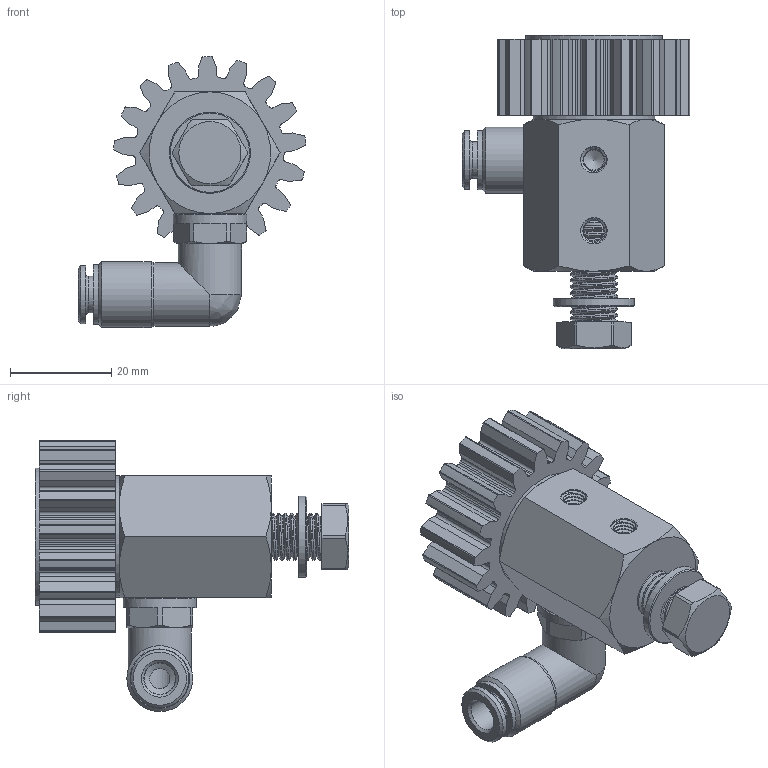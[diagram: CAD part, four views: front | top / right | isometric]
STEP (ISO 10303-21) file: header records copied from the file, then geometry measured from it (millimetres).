
FILE_DESCRIPTION (( 'STEP AP214' ), '1' );
FILE_NAME ('012_13_02_15_17BZ.STEP', '2026-04-08T12:32:25', ( '' ), ( '' ), 'SwSTEP 2.0', 'SolidWorks 2022', '' );
FILE_SCHEMA (( 'AUTOMOTIVE_DESIGN' ));
Length unit declared in the file: millimetre
Products named in the file (13): Schraube_M8_20; 012_06_Senkschraube; OR 7.2X1.9_1; 012_13_02_15_17BZ; RIVOLUZIONE_0_2; RH202242; U_Scheibe_8,4; H202242_HDS022_6_M10X1_08.05.17(1); Schmierzahnrad_02_15_17_G; DR6-C_HDX_25.07.16_1; 012_13b_01_winklige_Achse_lang_M8_1; 12012_06_01_Scheibe-CRS-VA_27.SLDASM; 12012_06_00_Scheibe-CRS-VA.SLDASM
Assembly tree (12 placements, depth 3):
  012_13_02_15_17BZ
    012_13b_01_winklige_Achse_lang_M8_1
    Schraube_M8_20
    U_Scheibe_8,4
    H202242_HDS022_6_M10X1_08.05.17(1)
      OR 7.2X1.9_1
      RH202242
      DR6-C_HDX_25.07.16_1
      RIVOLUZIONE_0_2
    12012_06_00_Scheibe-CRS-VA.SLDASM
    12012_06_01_Scheibe-CRS-VA_27.SLDASM
    012_06_Senkschraube
    Schmierzahnrad_02_15_17_G
Bounding box: 44.92 x 61.9 x 53.5 mm (x, y, z)
Volume: 33589 mm3; surface area: 18672.3 mm2
Topology: 11 solids, 11 shells, 733 faces, 2014 edges, 1336 vertices
Faces by surface type: plane 419, cylinder 141, bspline 116, cone 54, torus 3
Full cylindrical faces by diameter (mm): 3 x1, 4 x2, 5.5 x1, 6 x1, 6.2 x1, 6.3 x1, 6.5 x1, 7.2 x1, 8.4 x1, 8.5 x1, 9 x10, 9.9 x1, 10 x3, 10.1 x2, 10.3 x1, 11.5 x1, 11.7 x1, 12.5 x2, 13 x1, 14.5 x1, 16 x1, 24 x1, 27 x1
Entity records: 45189 total; most frequent: CARTESIAN_POINT 26868, ORIENTED_EDGE 3730, DIRECTION 3061, EDGE_CURVE 1865, VERTEX_POINT 1270, VECTOR 1181, LINE 1181, AXIS2_PLACEMENT_3D 940
